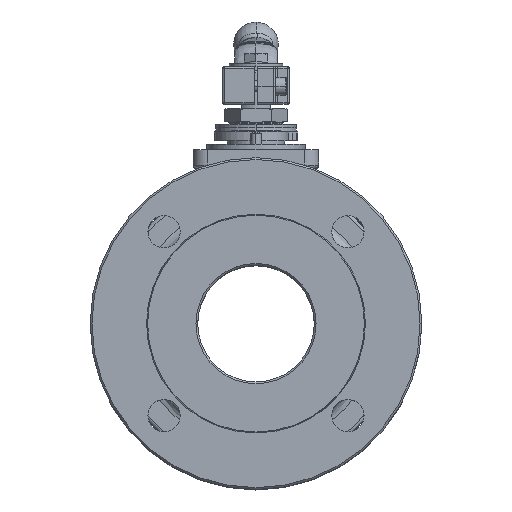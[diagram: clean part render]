
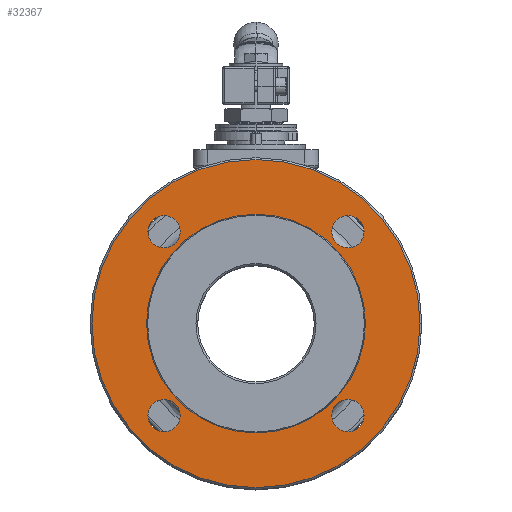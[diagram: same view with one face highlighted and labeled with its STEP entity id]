
A CAD part, top view. The second image highlights one B-rep face of the part: STEP entity #32367.
In plain terms, the highlighted planar face has unit normal (0, 0, 1) as drawn and (0, -1, 0) by its records, which use the part's own axes.
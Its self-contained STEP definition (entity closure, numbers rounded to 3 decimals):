
#870 = EDGE_CURVE ( 'NONE', #10446, #11543, #40923, .T. ) ;
#941 = AXIS2_PLACEMENT_3D ( 'NONE', #23505, #45834, #19730 ) ;
#1151 = EDGE_CURVE ( 'NONE', #41680, #18946, #5100, .T. ) ;
#1383 = CARTESIAN_POINT ( 'NONE',  ( 51.265, -53.253, -46.015 ) ) ;
#1724 = AXIS2_PLACEMENT_3D ( 'NONE', #14003, #36691, #44088 ) ;
#2300 = ORIENTED_EDGE ( 'NONE', *, *, #870, .T. ) ;
#2473 = EDGE_LOOP ( 'NONE', ( #22505, #29231 ) ) ;
#3304 = CARTESIAN_POINT ( 'NONE',  ( 0., -53.253, -80.5 ) ) ;
#3393 = EDGE_CURVE ( 'NONE', #45423, #28517, #41677, .T. ) ;
#4066 = ORIENTED_EDGE ( 'NONE', *, *, #41560, .T. ) ;
#4076 = ORIENTED_EDGE ( 'NONE', *, *, #19747, .T. ) ;
#4548 = DIRECTION ( 'NONE',  ( 0., 1., 0. ) ) ;
#4668 = CARTESIAN_POINT ( 'NONE',  ( 0., -53.253, 57.25 ) ) ;
#4791 = VERTEX_POINT ( 'NONE', #33978 ) ;
#5100 = CIRCLE ( 'NONE', #46354, 9. ) ;
#5530 = EDGE_CURVE ( 'NONE', #4791, #6053, #37478, .T. ) ;
#6053 = VERTEX_POINT ( 'NONE', #33917 ) ;
#9209 = CARTESIAN_POINT ( 'NONE',  ( 0., -53.253, -3.75 ) ) ;
#9455 = CIRCLE ( 'NONE', #32559, 9. ) ;
#9554 = DIRECTION ( 'NONE',  ( 0., 1., 0. ) ) ;
#10446 = VERTEX_POINT ( 'NONE', #29743 ) ;
#10549 = CIRCLE ( 'NONE', #15994, 61. ) ;
#11353 = DIRECTION ( 'NONE',  ( 0., 0., 1. ) ) ;
#11543 = VERTEX_POINT ( 'NONE', #23624 ) ;
#14003 = CARTESIAN_POINT ( 'NONE',  ( -51.265, -53.253, 47.515 ) ) ;
#14056 = CIRCLE ( 'NONE', #37757, 9. ) ;
#14160 = CIRCLE ( 'NONE', #36650, 91.5 ) ;
#14576 = AXIS2_PLACEMENT_3D ( 'NONE', #47304, #36178, #21204 ) ;
#15994 = AXIS2_PLACEMENT_3D ( 'NONE', #9209, #9554, #39624 ) ;
#16126 = FACE_BOUND ( 'NONE', #43791, .T. ) ;
#16718 = DIRECTION ( 'NONE',  ( 0., 0., 1. ) ) ;
#17608 = CIRCLE ( 'NONE', #941, 9. ) ;
#18259 = ORIENTED_EDGE ( 'NONE', *, *, #42556, .T. ) ;
#18548 = VERTEX_POINT ( 'NONE', #34784 ) ;
#18903 = VERTEX_POINT ( 'NONE', #37205 ) ;
#18946 = VERTEX_POINT ( 'NONE', #33261 ) ;
#18962 = CARTESIAN_POINT ( 'NONE',  ( 0., -53.253, -3.75 ) ) ;
#19283 = DIRECTION ( 'NONE',  ( 0., 0., 1. ) ) ;
#19412 = DIRECTION ( 'NONE',  ( 0., 1., 0. ) ) ;
#19730 = DIRECTION ( 'NONE',  ( 0., 0., 1. ) ) ;
#19747 = EDGE_CURVE ( 'NONE', #6053, #4791, #36566, .T. ) ;
#21030 = ORIENTED_EDGE ( 'NONE', *, *, #21230, .T. ) ;
#21204 = DIRECTION ( 'NONE',  ( 0., 0., 1. ) ) ;
#21230 = EDGE_CURVE ( 'NONE', #18903, #18548, #9455, .T. ) ;
#21378 = ORIENTED_EDGE ( 'NONE', *, *, #41860, .T. ) ;
#21971 = PLANE ( 'NONE',  #34146 ) ;
#22056 = CIRCLE ( 'NONE', #1724, 9. ) ;
#22234 = AXIS2_PLACEMENT_3D ( 'NONE', #48598, #33380, #11353 ) ;
#22442 = DIRECTION ( 'NONE',  ( 0., 1., 0. ) ) ;
#22505 = ORIENTED_EDGE ( 'NONE', *, *, #23091, .T. ) ;
#23091 = EDGE_CURVE ( 'NONE', #31849, #24746, #14160, .T. ) ;
#23203 = DIRECTION ( 'NONE',  ( 0., 0., 1. ) ) ;
#23505 = CARTESIAN_POINT ( 'NONE',  ( 51.265, -53.253, -55.015 ) ) ;
#23576 = DIRECTION ( 'NONE',  ( 0., 0., 1. ) ) ;
#23624 = CARTESIAN_POINT ( 'NONE',  ( 51.265, -53.253, 38.515 ) ) ;
#24746 = VERTEX_POINT ( 'NONE', #42647 ) ;
#24803 = CIRCLE ( 'NONE', #22234, 91.5 ) ;
#26244 = DIRECTION ( 'NONE',  ( 0., 0., -1. ) ) ;
#26686 = CARTESIAN_POINT ( 'NONE',  ( -51.265, -53.253, 47.515 ) ) ;
#28136 = EDGE_LOOP ( 'NONE', ( #39485, #4066 ) ) ;
#28517 = VERTEX_POINT ( 'NONE', #4668 ) ;
#29068 = FACE_BOUND ( 'NONE', #28136, .T. ) ;
#29231 = ORIENTED_EDGE ( 'NONE', *, *, #37877, .T. ) ;
#29421 = AXIS2_PLACEMENT_3D ( 'NONE', #43179, #39403, #16718 ) ;
#29743 = CARTESIAN_POINT ( 'NONE',  ( 51.265, -53.253, 56.515 ) ) ;
#29972 = DIRECTION ( 'NONE',  ( 0., 0., 1. ) ) ;
#30034 = EDGE_CURVE ( 'NONE', #18548, #18903, #22056, .T. ) ;
#30051 = DIRECTION ( 'NONE',  ( 0., -1., 0. ) ) ;
#30991 = CARTESIAN_POINT ( 'NONE',  ( 51.265, -53.253, 47.515 ) ) ;
#31849 = VERTEX_POINT ( 'NONE', #46300 ) ;
#32199 = AXIS2_PLACEMENT_3D ( 'NONE', #38324, #19412, #38652 ) ;
#32367 = ADVANCED_FACE ( 'NONE', ( #39058, #29068, #16126, #33183, #34961, #36700 ), #21971, .T. ) ;
#32559 = AXIS2_PLACEMENT_3D ( 'NONE', #26686, #34104, #19283 ) ;
#33183 = FACE_BOUND ( 'NONE', #40052, .T. ) ;
#33261 = CARTESIAN_POINT ( 'NONE',  ( 51.265, -53.253, -64.015 ) ) ;
#33380 = DIRECTION ( 'NONE',  ( 0., -1., 0. ) ) ;
#33917 = CARTESIAN_POINT ( 'NONE',  ( -51.265, -53.253, -46.015 ) ) ;
#33978 = CARTESIAN_POINT ( 'NONE',  ( -51.265, -53.253, -64.015 ) ) ;
#34104 = DIRECTION ( 'NONE',  ( 0., 1., 0. ) ) ;
#34146 = AXIS2_PLACEMENT_3D ( 'NONE', #3304, #30051, #26244 ) ;
#34784 = CARTESIAN_POINT ( 'NONE',  ( -51.265, -53.253, 38.515 ) ) ;
#34961 = FACE_BOUND ( 'NONE', #38739, .T. ) ;
#36178 = DIRECTION ( 'NONE',  ( 0., 1., 0. ) ) ;
#36566 = CIRCLE ( 'NONE', #32199, 9. ) ;
#36650 = AXIS2_PLACEMENT_3D ( 'NONE', #18962, #41964, #23203 ) ;
#36691 = DIRECTION ( 'NONE',  ( 0., 1., 0. ) ) ;
#36700 = FACE_BOUND ( 'NONE', #41650, .T. ) ;
#37205 = CARTESIAN_POINT ( 'NONE',  ( -51.265, -53.253, 56.515 ) ) ;
#37478 = CIRCLE ( 'NONE', #42075, 9. ) ;
#37757 = AXIS2_PLACEMENT_3D ( 'NONE', #30991, #4548, #23576 ) ;
#37877 = EDGE_CURVE ( 'NONE', #24746, #31849, #24803, .T. ) ;
#37915 = CARTESIAN_POINT ( 'NONE',  ( -51.265, -53.253, -55.015 ) ) ;
#38324 = CARTESIAN_POINT ( 'NONE',  ( -51.265, -53.253, -55.015 ) ) ;
#38652 = DIRECTION ( 'NONE',  ( 0., 0., 1. ) ) ;
#38739 = EDGE_LOOP ( 'NONE', ( #2300, #21378 ) ) ;
#39058 = FACE_OUTER_BOUND ( 'NONE', #2473, .T. ) ;
#39403 = DIRECTION ( 'NONE',  ( 0., 1., 0. ) ) ;
#39485 = ORIENTED_EDGE ( 'NONE', *, *, #1151, .T. ) ;
#39624 = DIRECTION ( 'NONE',  ( 0., 0., 1. ) ) ;
#40052 = EDGE_LOOP ( 'NONE', ( #21030, #40325 ) ) ;
#40325 = ORIENTED_EDGE ( 'NONE', *, *, #30034, .T. ) ;
#40923 = CIRCLE ( 'NONE', #14576, 9. ) ;
#41560 = EDGE_CURVE ( 'NONE', #18946, #41680, #17608, .T. ) ;
#41650 = EDGE_LOOP ( 'NONE', ( #18259, #48361 ) ) ;
#41677 = CIRCLE ( 'NONE', #29421, 61. ) ;
#41680 = VERTEX_POINT ( 'NONE', #1383 ) ;
#41860 = EDGE_CURVE ( 'NONE', #11543, #10446, #14056, .T. ) ;
#41964 = DIRECTION ( 'NONE',  ( 0., -1., 0. ) ) ;
#42075 = AXIS2_PLACEMENT_3D ( 'NONE', #37915, #22442, #44815 ) ;
#42556 = EDGE_CURVE ( 'NONE', #28517, #45423, #10549, .T. ) ;
#42647 = CARTESIAN_POINT ( 'NONE',  ( 0., -53.253, -95.25 ) ) ;
#43179 = CARTESIAN_POINT ( 'NONE',  ( 0., -53.253, -3.75 ) ) ;
#43791 = EDGE_LOOP ( 'NONE', ( #4076, #44466 ) ) ;
#44088 = DIRECTION ( 'NONE',  ( 0., 0., 1. ) ) ;
#44466 = ORIENTED_EDGE ( 'NONE', *, *, #5530, .T. ) ;
#44757 = CARTESIAN_POINT ( 'NONE',  ( 51.265, -53.253, -55.015 ) ) ;
#44804 = CARTESIAN_POINT ( 'NONE',  ( 0., -53.253, -64.75 ) ) ;
#44815 = DIRECTION ( 'NONE',  ( 0., 0., 1. ) ) ;
#45423 = VERTEX_POINT ( 'NONE', #44804 ) ;
#45834 = DIRECTION ( 'NONE',  ( 0., 1., 0. ) ) ;
#46300 = CARTESIAN_POINT ( 'NONE',  ( 0., -53.253, 87.75 ) ) ;
#46354 = AXIS2_PLACEMENT_3D ( 'NONE', #44757, #48319, #29972 ) ;
#47304 = CARTESIAN_POINT ( 'NONE',  ( 51.265, -53.253, 47.515 ) ) ;
#48319 = DIRECTION ( 'NONE',  ( 0., 1., 0. ) ) ;
#48361 = ORIENTED_EDGE ( 'NONE', *, *, #3393, .T. ) ;
#48598 = CARTESIAN_POINT ( 'NONE',  ( 0., -53.253, -3.75 ) ) ;
